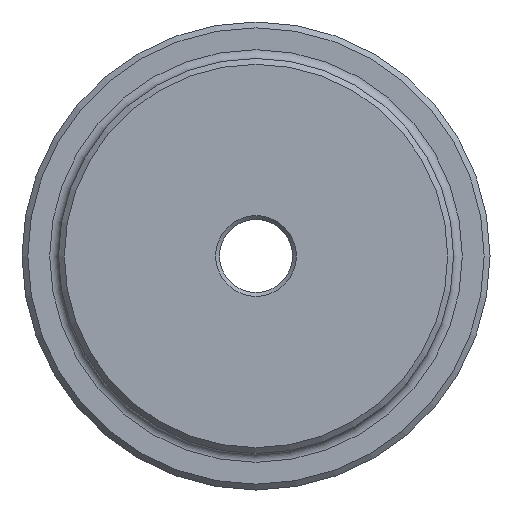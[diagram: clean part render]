
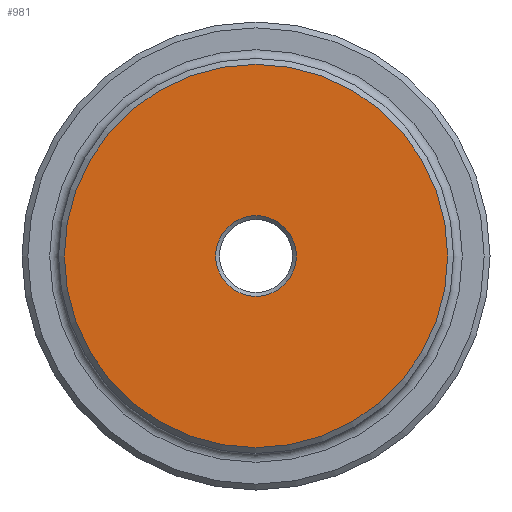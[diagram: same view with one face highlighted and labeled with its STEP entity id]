
A CAD part, left-side view. The second image highlights one B-rep face of the part: STEP entity #981.
In plain terms, the highlighted planar face has unit normal (-1, 0, 0).
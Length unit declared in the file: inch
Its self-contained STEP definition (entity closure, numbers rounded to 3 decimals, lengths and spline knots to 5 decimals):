
#42 = EDGE_LOOP ( 'NONE', ( #1084 ) ) ;
#127 = DIRECTION ( 'NONE',  ( -1., 0., 0. ) ) ;
#272 = CIRCLE ( 'NONE', #734, 0.41515 ) ;
#304 = EDGE_CURVE ( 'NONE', #2153, #2153, #1240, .T. ) ;
#422 = PLANE ( 'NONE',  #1570 ) ;
#437 = DIRECTION ( 'NONE',  ( 0., 0., -1. ) ) ;
#456 = DIRECTION ( 'NONE',  ( 1., 0., 0. ) ) ;
#520 = DIRECTION ( 'NONE',  ( 1., 0., 0. ) ) ;
#585 = CARTESIAN_POINT ( 'NONE',  ( 0., 0., -1.97 ) ) ;
#589 = CARTESIAN_POINT ( 'NONE',  ( 0., 0., 0. ) ) ;
#605 = AXIS2_PLACEMENT_3D ( 'NONE', #1222, #127, #437 ) ;
#734 = AXIS2_PLACEMENT_3D ( 'NONE', #589, #456, #2117 ) ;
#789 = EDGE_CURVE ( 'NONE', #1914, #1914, #272, .T. ) ;
#981 = ADVANCED_FACE ( 'NONE', ( #1386, #1878 ), #422, .F. ) ;
#1084 = ORIENTED_EDGE ( 'NONE', *, *, #304, .T. ) ;
#1163 = ORIENTED_EDGE ( 'NONE', *, *, #789, .T. ) ;
#1222 = CARTESIAN_POINT ( 'NONE',  ( 0., 0., 0. ) ) ;
#1240 = CIRCLE ( 'NONE', #605, 1.97 ) ;
#1312 = CARTESIAN_POINT ( 'NONE',  ( 0., 0., -0.41515 ) ) ;
#1386 = FACE_BOUND ( 'NONE', #1645, .T. ) ;
#1570 = AXIS2_PLACEMENT_3D ( 'NONE', #2120, #520, #1920 ) ;
#1645 = EDGE_LOOP ( 'NONE', ( #1163 ) ) ;
#1878 = FACE_OUTER_BOUND ( 'NONE', #42, .T. ) ;
#1914 = VERTEX_POINT ( 'NONE', #1312 ) ;
#1920 = DIRECTION ( 'NONE',  ( 0., 0., -1. ) ) ;
#2117 = DIRECTION ( 'NONE',  ( 0., 0., -1. ) ) ;
#2120 = CARTESIAN_POINT ( 'NONE',  ( 0., 0., 0. ) ) ;
#2153 = VERTEX_POINT ( 'NONE', #585 ) ;
